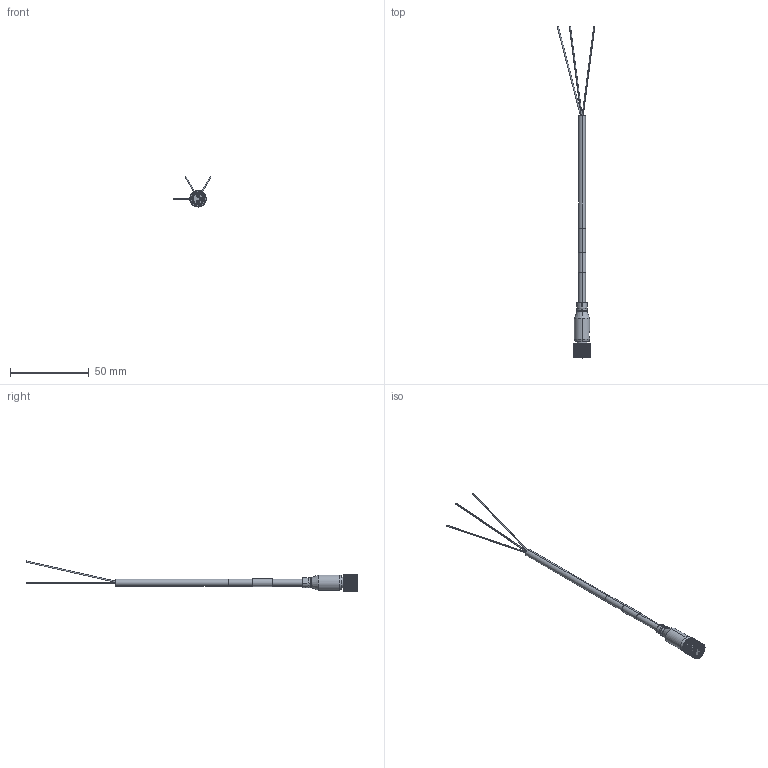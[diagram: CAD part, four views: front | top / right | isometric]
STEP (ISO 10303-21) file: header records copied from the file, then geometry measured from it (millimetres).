
FILE_DESCRIPTION((''),'2;1');
FILE_NAME('889P-F3HB-2','2015-03-24T',('20066374'),('Rockwell Automation'),'PRO/ENGINEER BY PARAMETRIC TECHNOLOGY CORPORATION, 2009140','PRO/ENGINEER BY PARAMETRIC TECHNOLOGY CORPORATION, 2009140','');
FILE_SCHEMA(('CONFIG_CONTROL_DESIGN'));
Length unit declared in the file: inch
Products named in the file (1): 889P-F3HB-2
Bounding box: 23.98 x 210.63 x 19.06 mm (x, y, z)
Volume: 3906.4 mm3; surface area: 4171.3 mm2
Topology: 1 solids, 1 shells, 361 faces, 911 edges, 559 vertices
Faces by surface type: cylinder 162, plane 118, cone 78, torus 3
Entity records: 10985 total; most frequent: CARTESIAN_POINT 2033, DIRECTION 1977, ORIENTED_EDGE 1822, EDGE_CURVE 911, AXIS2_PLACEMENT_3D 743, VERTEX_POINT 559, VECTOR 491, LINE 491
